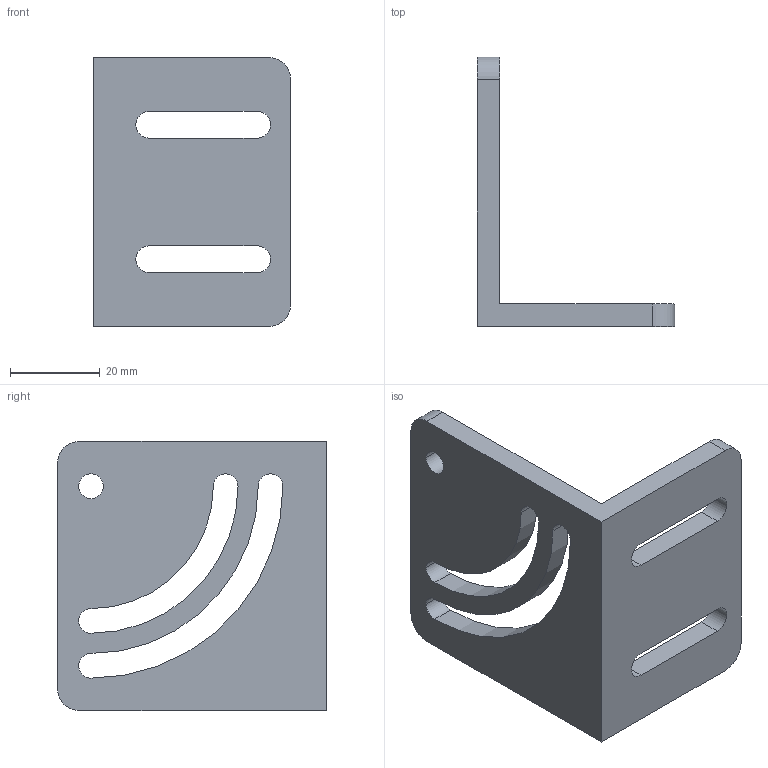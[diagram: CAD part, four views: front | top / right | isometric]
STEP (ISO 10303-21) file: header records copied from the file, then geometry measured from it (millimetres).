
FILE_DESCRIPTION (( 'STEP AP214' ), '1' );
FILE_NAME ('SCE4-NR.STEP', '2019-11-19T01:47:41', ( '微软用户' ), ( '微软中国' ), 'SwSTEP 2.0', 'SolidWorks 2016', '' );
FILE_SCHEMA (( 'AUTOMOTIVE_DESIGN' ));
Length unit declared in the file: millimetre
Products named in the file (1): SCE4-NR
Bounding box: 44 x 60 x 60 mm (x, y, z)
Volume: 24489.8 mm3; surface area: 13370.2 mm2
Topology: 1 solids, 1 shells, 32 faces, 90 edges, 60 vertices
Faces by surface type: cylinder 20, plane 12
Entity records: 1108 total; most frequent: DIRECTION 196, CARTESIAN_POINT 183, ORIENTED_EDGE 180, EDGE_CURVE 90, AXIS2_PLACEMENT_3D 73, VERTEX_POINT 60, VECTOR 50, LINE 50
